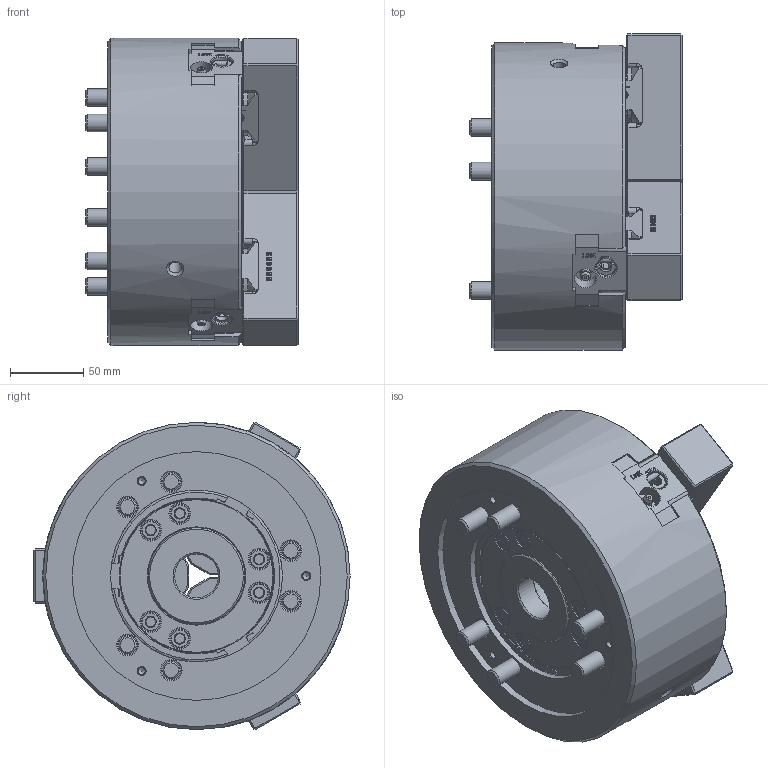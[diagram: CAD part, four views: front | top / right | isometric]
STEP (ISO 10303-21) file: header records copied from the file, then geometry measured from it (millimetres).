
FILE_DESCRIPTION (( 'STEP AP214' ), '1' );
FILE_NAME ('DT1_QB308_OUTSIDE_VIEW_HOL.STEP', '2024-05-16T00:23:09', ( '' ), ( '' ), 'SwSTEP 2.0', 'SolidWorks 2022', '' );
FILE_SCHEMA (( 'AUTOMOTIVE_DESIGN' ));
Length unit declared in the file: millimetre
Products named in the file (7): Part1^DT1_QB308_ﾃﾞﾌｫﾙﾄ; DT1_QB308_SOFTJAW^DT1_QB308_ﾃﾞﾌｫﾙﾄ; DT1_QB308_DRAWNUT^DT1_QB308_ﾃﾞﾌｫﾙﾄ; DT1_QB308_M12x90^DT1_QB308_ﾃﾞﾌｫﾙﾄ; DT1_QB308_COVER^DT1_QB308_ﾃﾞﾌｫﾙﾄ; DT1_QB308_M5x10^DT1_QB308_ﾃﾞﾌｫﾙﾄ; DT1_QB308_OUTSIDE_VIEW_HOL
Assembly tree (15 placements, depth 2):
  DT1_QB308_OUTSIDE_VIEW_HOL
    DT1_QB308_SOFTJAW^DT1_QB308_ﾃﾞﾌｫﾙﾄ  x3
    DT1_QB308_DRAWNUT^DT1_QB308_ﾃﾞﾌｫﾙﾄ
    DT1_QB308_COVER^DT1_QB308_ﾃﾞﾌｫﾙﾄ
    DT1_QB308_M5x10^DT1_QB308_ﾃﾞﾌｫﾙﾄ  x3
    DT1_QB308_M12x90^DT1_QB308_ﾃﾞﾌｫﾙﾄ  x6
    Part1^DT1_QB308_ﾃﾞﾌｫﾙﾄ
Bounding box: 145 x 216.15 x 210.02 mm (x, y, z)
Volume: 3231868.3 mm3; surface area: 311676 mm2
Topology: 15 solids, 15 shells, 2413 faces, 6259 edges, 4062 vertices
Faces by surface type: plane 1224, bspline 646, cone 252, cylinder 252, torus 36, sphere 3
Full cylindrical faces by diameter (mm): 2 x3, 4 x3, 4.2 x12, 5 x6, 5.5 x3, 6 x6, 8 x6, 8.5 x2, 9.5 x3, 10 x3, 12 x6, 13 x6, 13.5 x6, 13.8 x3, 14 x9, 14.2 x3, 15 x3, 18 x6, 18.27 x6, 20 x6, 30 x1, 52 x1, 56 x2, 61 x1, 64.8 x2, 66 x2, 72 x2, 105.2 x1, 117.5 x1, 170 x1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
Entity records: 72158 total; most frequent: CARTESIAN_POINT 31541, ORIENTED_EDGE 8950, DIRECTION 6730, EDGE_CURVE 4475, VERTEX_POINT 3016, LINE 2396, VECTOR 2396, EDGE_LOOP 2209
